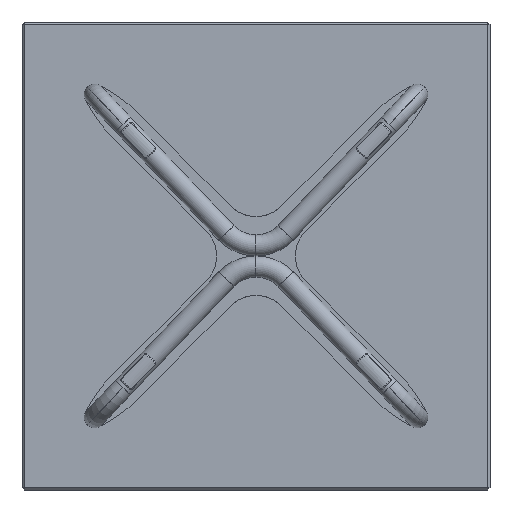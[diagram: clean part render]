
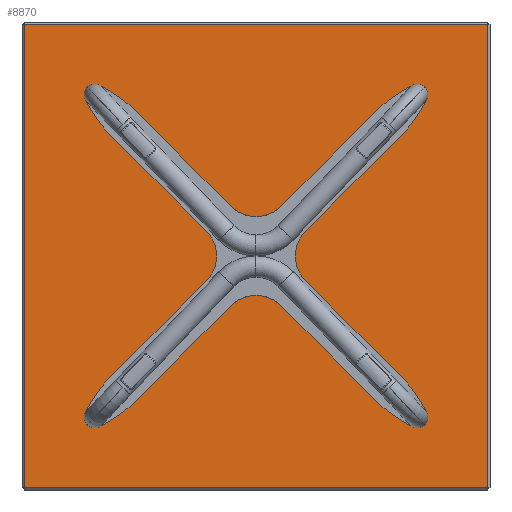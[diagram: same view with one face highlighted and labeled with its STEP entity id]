
A CAD part, front view. The second image highlights one B-rep face of the part: STEP entity #8870.
In plain terms, the highlighted planar face has unit normal (0, -1, 0).
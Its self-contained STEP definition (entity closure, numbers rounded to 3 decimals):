
#78 = CIRCLE ( 'NONE', #9065, 3.3 ) ;
#323 = AXIS2_PLACEMENT_3D ( 'NONE', #6502, #2937, #6363 ) ;
#329 = CIRCLE ( 'NONE', #6926, 3.3 ) ;
#334 = VERTEX_POINT ( 'NONE', #6152 ) ;
#369 = CIRCLE ( 'NONE', #2918, 3.3 ) ;
#414 = CARTESIAN_POINT ( 'NONE',  ( 100., -10., -100. ) ) ;
#547 = VERTEX_POINT ( 'NONE', #8179 ) ;
#567 = EDGE_CURVE ( 'NONE', #8606, #9013, #1128, .T. ) ;
#606 = EDGE_CURVE ( 'NONE', #4039, #334, #1364, .T. ) ;
#623 = CARTESIAN_POINT ( 'NONE',  ( 100., -10., 96.7 ) ) ;
#666 = DIRECTION ( 'NONE',  ( 0., -1., 0. ) ) ;
#682 = AXIS2_PLACEMENT_3D ( 'NONE', #414, #6987, #6317 ) ;
#788 = ORIENTED_EDGE ( 'NONE', *, *, #6619, .F. ) ;
#945 = CARTESIAN_POINT ( 'NONE',  ( -100., -10., 96.7 ) ) ;
#1128 = LINE ( 'NONE', #1829, #3316 ) ;
#1362 = EDGE_CURVE ( 'NONE', #6508, #8606, #4770, .T. ) ;
#1364 = CIRCLE ( 'NONE', #2706, 3.3 ) ;
#1398 = DIRECTION ( 'NONE',  ( 0., -1., 0. ) ) ;
#1456 = DIRECTION ( 'NONE',  ( 0., -1., 0. ) ) ;
#1496 = ORIENTED_EDGE ( 'NONE', *, *, #567, .T. ) ;
#1540 = CARTESIAN_POINT ( 'NONE',  ( 100., -10., -103.3 ) ) ;
#1543 = VERTEX_POINT ( 'NONE', #1540 ) ;
#1590 = EDGE_CURVE ( 'NONE', #7778, #1543, #329, .T. ) ;
#1665 = LINE ( 'NONE', #3124, #8869 ) ;
#1806 = DIRECTION ( 'NONE',  ( 0., 0., -1. ) ) ;
#1829 = CARTESIAN_POINT ( 'NONE',  ( 0., -10., -198. ) ) ;
#1939 = CARTESIAN_POINT ( 'NONE',  ( -100., -10., -100. ) ) ;
#1973 = ORIENTED_EDGE ( 'NONE', *, *, #606, .F. ) ;
#2220 = DIRECTION ( 'NONE',  ( 0., 0., 1. ) ) ;
#2483 = CIRCLE ( 'NONE', #8786, 3.3 ) ;
#2608 = EDGE_CURVE ( 'NONE', #547, #5151, #3927, .T. ) ;
#2639 = AXIS2_PLACEMENT_3D ( 'NONE', #7103, #666, #3541 ) ;
#2661 = EDGE_LOOP ( 'NONE', ( #5790, #4007 ) ) ;
#2669 = EDGE_CURVE ( 'NONE', #9013, #6120, #1665, .T. ) ;
#2698 = DIRECTION ( 'NONE',  ( 0., 0., -1. ) ) ;
#2706 = AXIS2_PLACEMENT_3D ( 'NONE', #4174, #1456, #4972 ) ;
#2918 = AXIS2_PLACEMENT_3D ( 'NONE', #3220, #6079, #3269 ) ;
#2931 = ORIENTED_EDGE ( 'NONE', *, *, #2979, .T. ) ;
#2937 = DIRECTION ( 'NONE',  ( 0., -1., 0. ) ) ;
#2952 = CARTESIAN_POINT ( 'NONE',  ( 100., -10., -100. ) ) ;
#2979 = EDGE_CURVE ( 'NONE', #6120, #6508, #8734, .T. ) ;
#3124 = CARTESIAN_POINT ( 'NONE',  ( 198., -10., 0. ) ) ;
#3220 = CARTESIAN_POINT ( 'NONE',  ( 100., -10., 100. ) ) ;
#3269 = DIRECTION ( 'NONE',  ( 0., 0., -1. ) ) ;
#3316 = VECTOR ( 'NONE', #7611, 1000. ) ;
#3396 = DIRECTION ( 'NONE',  ( 0., -1., 0. ) ) ;
#3541 = DIRECTION ( 'NONE',  ( 0., 0., -1. ) ) ;
#3772 = PLANE ( 'NONE',  #4153 ) ;
#3927 = CIRCLE ( 'NONE', #323, 3.3 ) ;
#4007 = ORIENTED_EDGE ( 'NONE', *, *, #1590, .F. ) ;
#4039 = VERTEX_POINT ( 'NONE', #7718 ) ;
#4153 = AXIS2_PLACEMENT_3D ( 'NONE', #4373, #7290, #2220 ) ;
#4174 = CARTESIAN_POINT ( 'NONE',  ( -100., -10., -100. ) ) ;
#4187 = FACE_OUTER_BOUND ( 'NONE', #4579, .T. ) ;
#4307 = CARTESIAN_POINT ( 'NONE',  ( 100., -10., 100. ) ) ;
#4373 = CARTESIAN_POINT ( 'NONE',  ( 0., -10., 0. ) ) ;
#4430 = CARTESIAN_POINT ( 'NONE',  ( 100., -10., -96.7 ) ) ;
#4579 = EDGE_LOOP ( 'NONE', ( #7351, #1496, #6110, #2931 ) ) ;
#4671 = VECTOR ( 'NONE', #2698, 1000. ) ;
#4770 = LINE ( 'NONE', #9135, #4671 ) ;
#4972 = DIRECTION ( 'NONE',  ( 0., 0., -1. ) ) ;
#5056 = ORIENTED_EDGE ( 'NONE', *, *, #2608, .F. ) ;
#5058 = DIRECTION ( 'NONE',  ( 0., 0., -1. ) ) ;
#5151 = VERTEX_POINT ( 'NONE', #945 ) ;
#5449 = DIRECTION ( 'NONE',  ( 0., 0., 1. ) ) ;
#5790 = ORIENTED_EDGE ( 'NONE', *, *, #7243, .F. ) ;
#5811 = DIRECTION ( 'NONE',  ( 0., 0., -1. ) ) ;
#6014 = CARTESIAN_POINT ( 'NONE',  ( 198., -10., -198. ) ) ;
#6065 = EDGE_LOOP ( 'NONE', ( #1973, #7090 ) ) ;
#6079 = DIRECTION ( 'NONE',  ( 0., -1., 0. ) ) ;
#6110 = ORIENTED_EDGE ( 'NONE', *, *, #2669, .T. ) ;
#6120 = VERTEX_POINT ( 'NONE', #7970 ) ;
#6152 = CARTESIAN_POINT ( 'NONE',  ( -100., -10., -96.7 ) ) ;
#6317 = DIRECTION ( 'NONE',  ( 0., 0., -1. ) ) ;
#6363 = DIRECTION ( 'NONE',  ( 0., 0., -1. ) ) ;
#6502 = CARTESIAN_POINT ( 'NONE',  ( -100., -10., 100. ) ) ;
#6508 = VERTEX_POINT ( 'NONE', #6559 ) ;
#6530 = DIRECTION ( 'NONE',  ( -1., 0., 0. ) ) ;
#6559 = CARTESIAN_POINT ( 'NONE',  ( -198., -10., 198. ) ) ;
#6619 = EDGE_CURVE ( 'NONE', #7621, #6738, #369, .T. ) ;
#6652 = EDGE_CURVE ( 'NONE', #334, #4039, #78, .T. ) ;
#6687 = FACE_BOUND ( 'NONE', #9200, .T. ) ;
#6738 = VERTEX_POINT ( 'NONE', #623 ) ;
#6926 = AXIS2_PLACEMENT_3D ( 'NONE', #2952, #3396, #5811 ) ;
#6949 = EDGE_LOOP ( 'NONE', ( #8287, #5056 ) ) ;
#6987 = DIRECTION ( 'NONE',  ( 0., -1., 0. ) ) ;
#7090 = ORIENTED_EDGE ( 'NONE', *, *, #6652, .F. ) ;
#7103 = CARTESIAN_POINT ( 'NONE',  ( -100., -10., 100. ) ) ;
#7139 = CARTESIAN_POINT ( 'NONE',  ( 0., -10., 198. ) ) ;
#7243 = EDGE_CURVE ( 'NONE', #1543, #7778, #8481, .T. ) ;
#7290 = DIRECTION ( 'NONE',  ( 0., 1., 0. ) ) ;
#7333 = EDGE_CURVE ( 'NONE', #6738, #7621, #2483, .T. ) ;
#7351 = ORIENTED_EDGE ( 'NONE', *, *, #1362, .T. ) ;
#7382 = FACE_BOUND ( 'NONE', #6949, .T. ) ;
#7383 = VECTOR ( 'NONE', #6530, 1000. ) ;
#7611 = DIRECTION ( 'NONE',  ( 1., 0., 0. ) ) ;
#7621 = VERTEX_POINT ( 'NONE', #7912 ) ;
#7674 = DIRECTION ( 'NONE',  ( 0., -1., 0. ) ) ;
#7718 = CARTESIAN_POINT ( 'NONE',  ( -100., -10., -103.3 ) ) ;
#7751 = ORIENTED_EDGE ( 'NONE', *, *, #7333, .F. ) ;
#7778 = VERTEX_POINT ( 'NONE', #4430 ) ;
#7889 = CIRCLE ( 'NONE', #2639, 3.3 ) ;
#7912 = CARTESIAN_POINT ( 'NONE',  ( 100., -10., 103.3 ) ) ;
#7970 = CARTESIAN_POINT ( 'NONE',  ( 198., -10., 198. ) ) ;
#8145 = EDGE_CURVE ( 'NONE', #5151, #547, #7889, .T. ) ;
#8179 = CARTESIAN_POINT ( 'NONE',  ( -100., -10., 103.3 ) ) ;
#8287 = ORIENTED_EDGE ( 'NONE', *, *, #8145, .F. ) ;
#8481 = CIRCLE ( 'NONE', #682, 3.3 ) ;
#8606 = VERTEX_POINT ( 'NONE', #8686 ) ;
#8686 = CARTESIAN_POINT ( 'NONE',  ( -198., -10., -198. ) ) ;
#8734 = LINE ( 'NONE', #7139, #7383 ) ;
#8749 = FACE_BOUND ( 'NONE', #2661, .T. ) ;
#8786 = AXIS2_PLACEMENT_3D ( 'NONE', #4307, #1398, #5058 ) ;
#8869 = VECTOR ( 'NONE', #5449, 1000. ) ;
#8870 = ADVANCED_FACE ( 'NONE', ( #4187, #9222, #7382, #6687, #8749 ), #3772, .F. ) ;
#9013 = VERTEX_POINT ( 'NONE', #6014 ) ;
#9065 = AXIS2_PLACEMENT_3D ( 'NONE', #1939, #7674, #1806 ) ;
#9135 = CARTESIAN_POINT ( 'NONE',  ( -198., -10., 0. ) ) ;
#9200 = EDGE_LOOP ( 'NONE', ( #7751, #788 ) ) ;
#9222 = FACE_BOUND ( 'NONE', #6065, .T. ) ;
